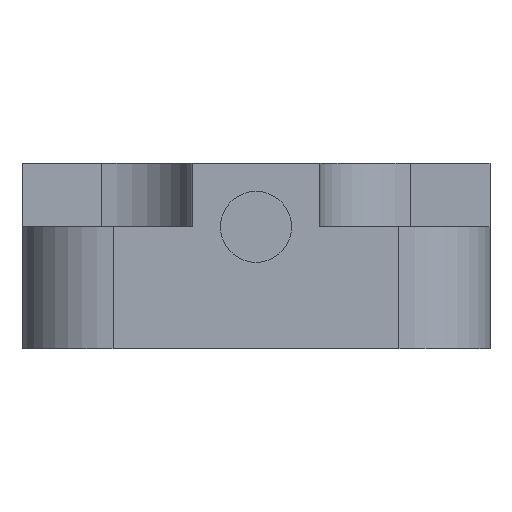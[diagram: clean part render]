
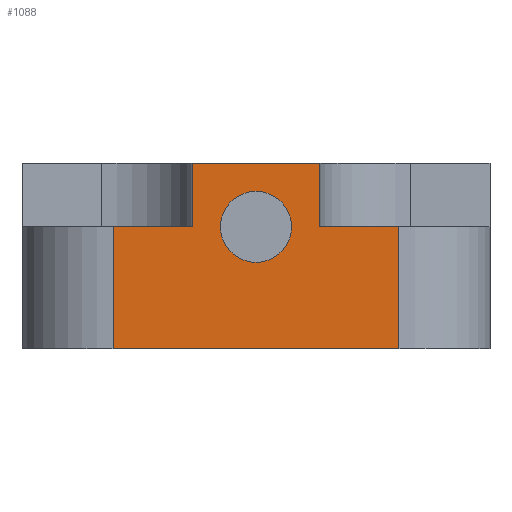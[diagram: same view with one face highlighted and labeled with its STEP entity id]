
A CAD part, left-side view. The second image highlights one B-rep face of the part: STEP entity #1088.
In plain terms, the highlighted planar face has unit normal (-1, 0, 0).
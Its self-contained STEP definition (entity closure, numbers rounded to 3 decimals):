
#25 = EDGE_CURVE ( 'NONE', #769, #260, #782, .T. ) ;
#64 = DIRECTION ( 'NONE',  ( 0., 1., 0. ) ) ;
#117 = DIRECTION ( 'NONE',  ( 0., 0., 1. ) ) ;
#124 = ORIENTED_EDGE ( 'NONE', *, *, #1029, .F. ) ;
#145 = CARTESIAN_POINT ( 'NONE',  ( -0.1, -12.75, 6.6 ) ) ;
#158 = VECTOR ( 'NONE', #2397, 1000. ) ;
#260 = VERTEX_POINT ( 'NONE', #1254 ) ;
#273 = CARTESIAN_POINT ( 'NONE',  ( -0.1, -20.6, -0.1 ) ) ;
#303 = ORIENTED_EDGE ( 'NONE', *, *, #1806, .F. ) ;
#312 = ORIENTED_EDGE ( 'NONE', *, *, #1946, .F. ) ;
#323 = EDGE_CURVE ( 'NONE', #1334, #961, #683, .T. ) ;
#325 = LINE ( 'NONE', #586, #484 ) ;
#333 = VECTOR ( 'NONE', #1238, 1000. ) ;
#337 = DIRECTION ( 'NONE',  ( 0., 1., 0. ) ) ;
#351 = LINE ( 'NONE', #2516, #333 ) ;
#355 = CARTESIAN_POINT ( 'NONE',  ( -0.1, -14.7, 6.6 ) ) ;
#443 = VECTOR ( 'NONE', #117, 1000. ) ;
#473 = FACE_BOUND ( 'NONE', #1923, .T. ) ;
#484 = VECTOR ( 'NONE', #1186, 1000. ) ;
#500 = EDGE_LOOP ( 'NONE', ( #1058, #1014, #721, #124, #312, #2763, #1084, #1966 ) ) ;
#533 = VERTEX_POINT ( 'NONE', #2722 ) ;
#586 = CARTESIAN_POINT ( 'NONE',  ( -0.1, -5., 6.6 ) ) ;
#606 = CARTESIAN_POINT ( 'NONE',  ( -0.1, 0., -0.1 ) ) ;
#622 = AXIS2_PLACEMENT_3D ( 'NONE', #145, #1000, #1013 ) ;
#623 = CARTESIAN_POINT ( 'NONE',  ( -0.1, -9.25, 6.6 ) ) ;
#649 = VERTEX_POINT ( 'NONE', #623 ) ;
#683 = LINE ( 'NONE', #1091, #1537 ) ;
#692 = EDGE_CURVE ( 'NONE', #961, #1671, #1080, .T. ) ;
#695 = CARTESIAN_POINT ( 'NONE',  ( -0.1, -16.25, 6.6 ) ) ;
#716 = CARTESIAN_POINT ( 'NONE',  ( -0.1, -9.25, 10.1 ) ) ;
#721 = ORIENTED_EDGE ( 'NONE', *, *, #25, .F. ) ;
#736 = CARTESIAN_POINT ( 'NONE',  ( -0.1, 0., 10. ) ) ;
#769 = VERTEX_POINT ( 'NONE', #716 ) ;
#782 = LINE ( 'NONE', #1217, #2067 ) ;
#783 = AXIS2_PLACEMENT_3D ( 'NONE', #2652, #2034, #337 ) ;
#794 = EDGE_CURVE ( 'NONE', #1746, #2465, #1416, .T. ) ;
#918 = EDGE_CURVE ( 'NONE', #997, #533, #351, .T. ) ;
#961 = VERTEX_POINT ( 'NONE', #1105 ) ;
#986 = ORIENTED_EDGE ( 'NONE', *, *, #794, .F. ) ;
#997 = VERTEX_POINT ( 'NONE', #695 ) ;
#1000 = DIRECTION ( 'NONE',  ( -1., 0., 0. ) ) ;
#1013 = DIRECTION ( 'NONE',  ( 0., 1., 0. ) ) ;
#1014 = ORIENTED_EDGE ( 'NONE', *, *, #1974, .T. ) ;
#1029 = EDGE_CURVE ( 'NONE', #649, #769, #1328, .T. ) ;
#1058 = ORIENTED_EDGE ( 'NONE', *, *, #918, .F. ) ;
#1080 = LINE ( 'NONE', #606, #2120 ) ;
#1084 = ORIENTED_EDGE ( 'NONE', *, *, #692, .T. ) ;
#1088 = ADVANCED_FACE ( 'NONE', ( #473, #2197 ), #1131, .F. ) ;
#1091 = CARTESIAN_POINT ( 'NONE',  ( -0.1, -4.9, 10. ) ) ;
#1105 = CARTESIAN_POINT ( 'NONE',  ( -0.1, -4.9, -0.1 ) ) ;
#1131 = PLANE ( 'NONE',  #2462 ) ;
#1151 = DIRECTION ( 'NONE',  ( 0., 0., 1. ) ) ;
#1161 = CARTESIAN_POINT ( 'NONE',  ( -0.1, -4.9, 6.6 ) ) ;
#1186 = DIRECTION ( 'NONE',  ( 0., -1., 0. ) ) ;
#1215 = EDGE_CURVE ( 'NONE', #1671, #533, #2001, .T. ) ;
#1217 = CARTESIAN_POINT ( 'NONE',  ( -0.1, 0., 10.1 ) ) ;
#1238 = DIRECTION ( 'NONE',  ( 0., -1., 0. ) ) ;
#1254 = CARTESIAN_POINT ( 'NONE',  ( -0.1, -16.25, 10.1 ) ) ;
#1285 = CARTESIAN_POINT ( 'NONE',  ( -0.1, -9.25, 6.6 ) ) ;
#1328 = LINE ( 'NONE', #1285, #158 ) ;
#1334 = VERTEX_POINT ( 'NONE', #1161 ) ;
#1392 = CARTESIAN_POINT ( 'NONE',  ( -0.1, -16.25, 6.6 ) ) ;
#1408 = DIRECTION ( 'NONE',  ( 0., -1., 0. ) ) ;
#1416 = CIRCLE ( 'NONE', #783, 1.95 ) ;
#1486 = DIRECTION ( 'NONE',  ( 0., 0., -1. ) ) ;
#1537 = VECTOR ( 'NONE', #1486, 1000. ) ;
#1568 = CARTESIAN_POINT ( 'NONE',  ( -0.1, -20.6, 10. ) ) ;
#1671 = VERTEX_POINT ( 'NONE', #273 ) ;
#1679 = DIRECTION ( 'NONE',  ( 0., -1., 0. ) ) ;
#1746 = VERTEX_POINT ( 'NONE', #355 ) ;
#1785 = CARTESIAN_POINT ( 'NONE',  ( -0.1, -10.8, 6.6 ) ) ;
#1806 = EDGE_CURVE ( 'NONE', #2465, #1746, #1873, .T. ) ;
#1873 = CIRCLE ( 'NONE', #622, 1.95 ) ;
#1923 = EDGE_LOOP ( 'NONE', ( #303, #986 ) ) ;
#1946 = EDGE_CURVE ( 'NONE', #1334, #649, #325, .T. ) ;
#1966 = ORIENTED_EDGE ( 'NONE', *, *, #1215, .T. ) ;
#1974 = EDGE_CURVE ( 'NONE', #997, #260, #2467, .T. ) ;
#1995 = DIRECTION ( 'NONE',  ( 1., 0., 0. ) ) ;
#2001 = LINE ( 'NONE', #1568, #2647 ) ;
#2034 = DIRECTION ( 'NONE',  ( -1., 0., 0. ) ) ;
#2067 = VECTOR ( 'NONE', #1408, 1000. ) ;
#2120 = VECTOR ( 'NONE', #1679, 1000. ) ;
#2197 = FACE_OUTER_BOUND ( 'NONE', #500, .T. ) ;
#2397 = DIRECTION ( 'NONE',  ( 0., 0., 1. ) ) ;
#2462 = AXIS2_PLACEMENT_3D ( 'NONE', #736, #1995, #64 ) ;
#2465 = VERTEX_POINT ( 'NONE', #1785 ) ;
#2467 = LINE ( 'NONE', #1392, #443 ) ;
#2516 = CARTESIAN_POINT ( 'NONE',  ( -0.1, -16.15, 6.6 ) ) ;
#2647 = VECTOR ( 'NONE', #1151, 1000. ) ;
#2652 = CARTESIAN_POINT ( 'NONE',  ( -0.1, -12.75, 6.6 ) ) ;
#2722 = CARTESIAN_POINT ( 'NONE',  ( -0.1, -20.6, 6.6 ) ) ;
#2763 = ORIENTED_EDGE ( 'NONE', *, *, #323, .T. ) ;
